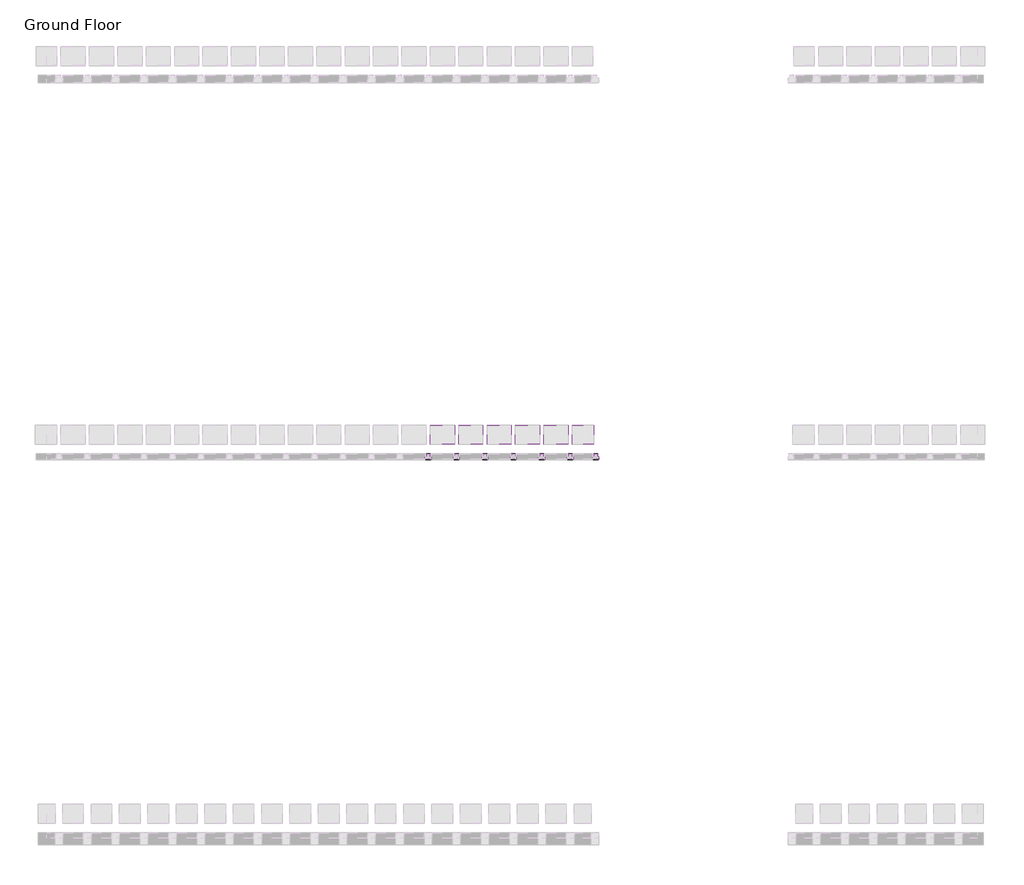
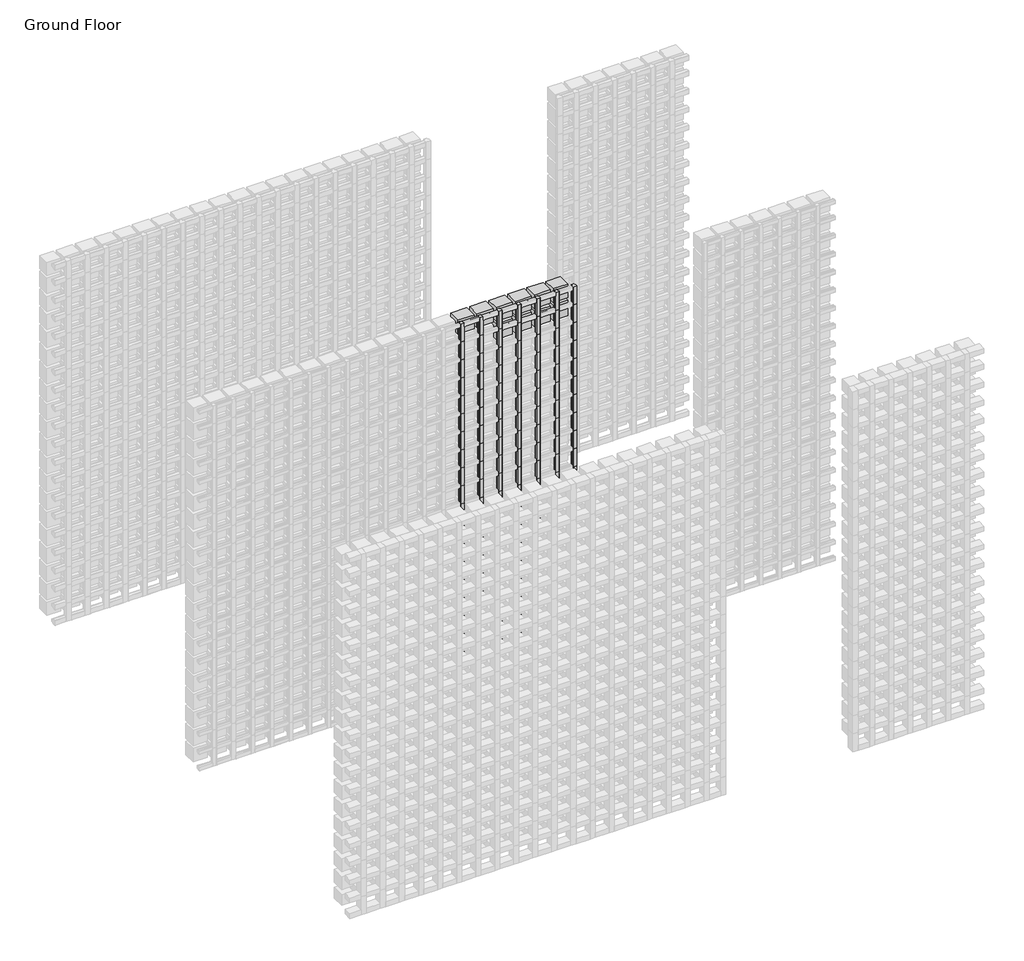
# One storey, part 101 of 350: 133 members, 10 plates.
"""IFC4 building model written with IfcOpenShell, lengths in millimetres."""

from ifc_helpers import new_model, si_unit, origin, place, context, project, spatial, transform, mapped, element, save
from components import rectangular_mullion_f1976eb1, rectangular_mullion_a370a012, empty_system_panel_empty_5a3607ba, empty_system_panel_empty_babc703c, empty_system_panel_empty_56815599, empty_system_panel_empty_50ac6329

model = new_model("IFC4")

# Units and contexts
model_context = context("Model", 3, world=origin())
ifc_project = project(units=[si_unit("LENGTHUNIT", "METRE", prefix="MILLI")], contexts=[model_context])

# Site, building, storey
site = spatial("IfcSite", under=ifc_project)
building = spatial("IfcBuilding", under=site)
storey = spatial("IfcBuildingStorey", under=building, Name="Ground Floor", Elevation=0.0)

# Members
placement = place(None, origin())
rectangular_mullion_shape = rectangular_mullion_f1976eb1(model_context)
element("IfcMember", 1, ObjectType="Rectangular Mullion : Batten_Timber_Modinex_Austratus_Grid_Fin_30x30_AlaskanYellowCedar", at=placement, inside=storey, context=model_context, shape_type="MappedRepresentation", body=[
    mapped(rectangular_mullion_shape, transform((4016.4361642, 42968.2978302, 150.0), x_axis=(1.0, 0.0, 0.0), y_axis=(0.0, -1.0, 0.0), z_axis=(0.0, 0.0, -1.0))),
])
element("IfcMember", 2, ObjectType="Rectangular Mullion : Batten_Timber_Modinex_Austratus_Grid_Fin_30x30_AlaskanYellowCedar", at=placement, inside=storey, context=model_context, shape_type="MappedRepresentation", body=[
    mapped(rectangular_mullion_shape, transform((4016.4361642, 42968.2978302, 300.0), x_axis=(1.0, 0.0, 0.0), y_axis=(0.0, -1.0, 0.0), z_axis=(0.0, 0.0, -1.0))),
])
element("IfcMember", 3, ObjectType="Rectangular Mullion : Batten_Timber_Modinex_Austratus_Grid_Fin_30x30_AlaskanYellowCedar", at=placement, inside=storey, context=model_context, shape_type="MappedRepresentation", body=[
    mapped(rectangular_mullion_shape, transform((4016.4361642, 42968.2978302, 450.0), x_axis=(1.0, 0.0, 0.0), y_axis=(0.0, -1.0, 0.0), z_axis=(0.0, 0.0, -1.0))),
])
element("IfcMember", 4, ObjectType="Rectangular Mullion : Batten_Timber_Modinex_Austratus_Grid_Fin_30x30_AlaskanYellowCedar", at=placement, inside=storey, context=model_context, shape_type="MappedRepresentation", body=[
    mapped(rectangular_mullion_shape, transform((4016.4361642, 42968.2978302, 600.0), x_axis=(1.0, 0.0, 0.0), y_axis=(0.0, -1.0, 0.0), z_axis=(0.0, 0.0, -1.0))),
])
element("IfcMember", 5, ObjectType="Rectangular Mullion : Batten_Timber_Modinex_Austratus_Grid_Fin_30x30_AlaskanYellowCedar", at=placement, inside=storey, context=model_context, shape_type="MappedRepresentation", body=[
    mapped(rectangular_mullion_shape, transform((4016.4361642, 42968.2978302, 750.0), x_axis=(1.0, 0.0, 0.0), y_axis=(0.0, -1.0, 0.0), z_axis=(0.0, 0.0, -1.0))),
])
element("IfcMember", 6, ObjectType="Rectangular Mullion : Batten_Timber_Modinex_Austratus_Grid_Fin_30x30_AlaskanYellowCedar", at=placement, inside=storey, context=model_context, shape_type="MappedRepresentation", body=[
    mapped(rectangular_mullion_shape, transform((4016.4361642, 42968.2978302, 900.0), x_axis=(1.0, 0.0, 0.0), y_axis=(0.0, -1.0, 0.0), z_axis=(0.0, 0.0, -1.0))),
])
element("IfcMember", 7, ObjectType="Rectangular Mullion : Batten_Timber_Modinex_Austratus_Grid_Fin_30x30_AlaskanYellowCedar", at=placement, inside=storey, context=model_context, shape_type="MappedRepresentation", body=[
    mapped(rectangular_mullion_shape, transform((4016.4361642, 42968.2978302, 1050.0), x_axis=(1.0, 0.0, 0.0), y_axis=(0.0, -1.0, 0.0), z_axis=(0.0, 0.0, -1.0))),
])
element("IfcMember", 8, ObjectType="Rectangular Mullion : Batten_Timber_Modinex_Austratus_Grid_Fin_30x30_AlaskanYellowCedar", at=placement, inside=storey, context=model_context, shape_type="MappedRepresentation", body=[
    mapped(rectangular_mullion_shape, transform((4016.4361642, 42968.2978302, 1200.0), x_axis=(1.0, 0.0, 0.0), y_axis=(0.0, -1.0, 0.0), z_axis=(0.0, 0.0, -1.0))),
])
element("IfcMember", 9, ObjectType="Rectangular Mullion : Batten_Timber_Modinex_Austratus_Grid_Fin_30x30_AlaskanYellowCedar", at=placement, inside=storey, context=model_context, shape_type="MappedRepresentation", body=[
    mapped(rectangular_mullion_shape, transform((4016.4361642, 42968.2978302, 1350.0), x_axis=(1.0, 0.0, 0.0), y_axis=(0.0, -1.0, 0.0), z_axis=(0.0, 0.0, -1.0))),
])
element("IfcMember", 10, ObjectType="Rectangular Mullion : Batten_Timber_Modinex_Austratus_Grid_Fin_30x30_AlaskanYellowCedar", at=placement, inside=storey, context=model_context, shape_type="MappedRepresentation", body=[
    mapped(rectangular_mullion_shape, transform((4016.4361642, 42968.2978302, 1500.0), x_axis=(1.0, 0.0, 0.0), y_axis=(0.0, -1.0, 0.0), z_axis=(0.0, 0.0, -1.0))),
])
element("IfcMember", 11, ObjectType="Rectangular Mullion : Batten_Timber_Modinex_Austratus_Grid_Fin_30x30_AlaskanYellowCedar", at=placement, inside=storey, context=model_context, shape_type="MappedRepresentation", body=[
    mapped(rectangular_mullion_shape, transform((4016.4361642, 42968.2978302, 1650.0), x_axis=(1.0, 0.0, 0.0), y_axis=(0.0, -1.0, 0.0), z_axis=(0.0, 0.0, -1.0))),
])
element("IfcMember", 12, ObjectType="Rectangular Mullion : Batten_Timber_Modinex_Austratus_Grid_Fin_30x30_AlaskanYellowCedar", at=placement, inside=storey, context=model_context, shape_type="MappedRepresentation", body=[
    mapped(rectangular_mullion_shape, transform((4016.4361642, 42968.2978302, 1800.0), x_axis=(1.0, 0.0, 0.0), y_axis=(0.0, -1.0, 0.0), z_axis=(0.0, 0.0, -1.0))),
])
element("IfcMember", 13, ObjectType="Rectangular Mullion : Batten_Timber_Modinex_Austratus_Grid_Fin_30x30_AlaskanYellowCedar", at=placement, inside=storey, context=model_context, shape_type="MappedRepresentation", body=[
    mapped(rectangular_mullion_shape, transform((4016.4361642, 42968.2978302, 1950.0), x_axis=(1.0, 0.0, 0.0), y_axis=(0.0, -1.0, 0.0), z_axis=(0.0, 0.0, -1.0))),
])
element("IfcMember", 14, ObjectType="Rectangular Mullion : Batten_Timber_Modinex_Austratus_Grid_Fin_30x30_AlaskanYellowCedar", at=placement, inside=storey, context=model_context, shape_type="MappedRepresentation", body=[
    mapped(rectangular_mullion_shape, transform((4016.4361642, 42968.2978302, 2100.0), x_axis=(1.0, 0.0, 0.0), y_axis=(0.0, -1.0, 0.0), z_axis=(0.0, 0.0, -1.0))),
])
element("IfcMember", 15, ObjectType="Rectangular Mullion : Batten_Timber_Modinex_Austratus_Grid_Fin_30x30_AlaskanYellowCedar", at=placement, inside=storey, context=model_context, shape_type="MappedRepresentation", body=[
    mapped(rectangular_mullion_shape, transform((4016.4361642, 42968.2978302, 2250.0), x_axis=(1.0, 0.0, 0.0), y_axis=(0.0, -1.0, 0.0), z_axis=(0.0, 0.0, -1.0))),
])
element("IfcMember", 16, ObjectType="Rectangular Mullion : Batten_Timber_Modinex_Austratus_Grid_Fin_30x30_AlaskanYellowCedar", at=placement, inside=storey, context=model_context, shape_type="MappedRepresentation", body=[
    mapped(rectangular_mullion_shape, transform((4016.4361642, 42968.2978302, 2400.0), x_axis=(1.0, 0.0, 0.0), y_axis=(0.0, -1.0, 0.0), z_axis=(0.0, 0.0, -1.0))),
])
element("IfcMember", 17, ObjectType="Rectangular Mullion : Batten_Timber_Modinex_Austratus_Grid_Fin_30x30_AlaskanYellowCedar", at=placement, inside=storey, context=model_context, shape_type="MappedRepresentation", body=[
    mapped(rectangular_mullion_shape, transform((4016.4361642, 42968.2978302, 2550.0), x_axis=(1.0, 0.0, 0.0), y_axis=(0.0, -1.0, 0.0), z_axis=(0.0, 0.0, -1.0))),
])
element("IfcMember", 18, ObjectType="Rectangular Mullion : Batten_Timber_Modinex_Austratus_Grid_Fin_30x30_AlaskanYellowCedar", at=placement, inside=storey, context=model_context, shape_type="MappedRepresentation", body=[
    mapped(rectangular_mullion_shape, transform((4016.4361642, 42968.2978302, 2700.0), x_axis=(1.0, 0.0, 0.0), y_axis=(0.0, -1.0, 0.0), z_axis=(0.0, 0.0, -1.0))),
])
element("IfcMember", 19, ObjectType="Rectangular Mullion : Batten_Timber_Modinex_Austratus_Grid_Fin_30x30_AlaskanYellowCedar", at=placement, inside=storey, context=model_context, shape_type="MappedRepresentation", body=[
    mapped(rectangular_mullion_shape, transform((4166.4361642, 42968.2978302, 150.0), x_axis=(1.0, 0.0, 0.0), y_axis=(0.0, -1.0, 0.0), z_axis=(0.0, 0.0, -1.0))),
])
element("IfcMember", 20, ObjectType="Rectangular Mullion : Batten_Timber_Modinex_Austratus_Grid_Fin_30x30_AlaskanYellowCedar", at=placement, inside=storey, context=model_context, shape_type="MappedRepresentation", body=[
    mapped(rectangular_mullion_shape, transform((4166.4361642, 42968.2978302, 300.0), x_axis=(1.0, 0.0, 0.0), y_axis=(0.0, -1.0, 0.0), z_axis=(0.0, 0.0, -1.0))),
])
element("IfcMember", 21, ObjectType="Rectangular Mullion : Batten_Timber_Modinex_Austratus_Grid_Fin_30x30_AlaskanYellowCedar", at=placement, inside=storey, context=model_context, shape_type="MappedRepresentation", body=[
    mapped(rectangular_mullion_shape, transform((4166.4361642, 42968.2978302, 450.0), x_axis=(1.0, 0.0, 0.0), y_axis=(0.0, -1.0, 0.0), z_axis=(0.0, 0.0, -1.0))),
])
element("IfcMember", 22, ObjectType="Rectangular Mullion : Batten_Timber_Modinex_Austratus_Grid_Fin_30x30_AlaskanYellowCedar", at=placement, inside=storey, context=model_context, shape_type="MappedRepresentation", body=[
    mapped(rectangular_mullion_shape, transform((4166.4361642, 42968.2978302, 600.0), x_axis=(1.0, 0.0, 0.0), y_axis=(0.0, -1.0, 0.0), z_axis=(0.0, 0.0, -1.0))),
])
element("IfcMember", 23, ObjectType="Rectangular Mullion : Batten_Timber_Modinex_Austratus_Grid_Fin_30x30_AlaskanYellowCedar", at=placement, inside=storey, context=model_context, shape_type="MappedRepresentation", body=[
    mapped(rectangular_mullion_shape, transform((4166.4361642, 42968.2978302, 750.0), x_axis=(1.0, 0.0, 0.0), y_axis=(0.0, -1.0, 0.0), z_axis=(0.0, 0.0, -1.0))),
])
element("IfcMember", 24, ObjectType="Rectangular Mullion : Batten_Timber_Modinex_Austratus_Grid_Fin_30x30_AlaskanYellowCedar", at=placement, inside=storey, context=model_context, shape_type="MappedRepresentation", body=[
    mapped(rectangular_mullion_shape, transform((4166.4361642, 42968.2978302, 900.0), x_axis=(1.0, 0.0, 0.0), y_axis=(0.0, -1.0, 0.0), z_axis=(0.0, 0.0, -1.0))),
])
element("IfcMember", 25, ObjectType="Rectangular Mullion : Batten_Timber_Modinex_Austratus_Grid_Fin_30x30_AlaskanYellowCedar", at=placement, inside=storey, context=model_context, shape_type="MappedRepresentation", body=[
    mapped(rectangular_mullion_shape, transform((4166.4361642, 42968.2978302, 1050.0), x_axis=(1.0, 0.0, 0.0), y_axis=(0.0, -1.0, 0.0), z_axis=(0.0, 0.0, -1.0))),
])
element("IfcMember", 26, ObjectType="Rectangular Mullion : Batten_Timber_Modinex_Austratus_Grid_Fin_30x30_AlaskanYellowCedar", at=placement, inside=storey, context=model_context, shape_type="MappedRepresentation", body=[
    mapped(rectangular_mullion_shape, transform((4166.4361642, 42968.2978302, 1200.0), x_axis=(1.0, 0.0, 0.0), y_axis=(0.0, -1.0, 0.0), z_axis=(0.0, 0.0, -1.0))),
])
element("IfcMember", 27, ObjectType="Rectangular Mullion : Batten_Timber_Modinex_Austratus_Grid_Fin_30x30_AlaskanYellowCedar", at=placement, inside=storey, context=model_context, shape_type="MappedRepresentation", body=[
    mapped(rectangular_mullion_shape, transform((4166.4361642, 42968.2978302, 1350.0), x_axis=(1.0, 0.0, 0.0), y_axis=(0.0, -1.0, 0.0), z_axis=(0.0, 0.0, -1.0))),
])
element("IfcMember", 28, ObjectType="Rectangular Mullion : Batten_Timber_Modinex_Austratus_Grid_Fin_30x30_AlaskanYellowCedar", at=placement, inside=storey, context=model_context, shape_type="MappedRepresentation", body=[
    mapped(rectangular_mullion_shape, transform((4166.4361642, 42968.2978302, 1500.0), x_axis=(1.0, 0.0, 0.0), y_axis=(0.0, -1.0, 0.0), z_axis=(0.0, 0.0, -1.0))),
])
element("IfcMember", 29, ObjectType="Rectangular Mullion : Batten_Timber_Modinex_Austratus_Grid_Fin_30x30_AlaskanYellowCedar", at=placement, inside=storey, context=model_context, shape_type="MappedRepresentation", body=[
    mapped(rectangular_mullion_shape, transform((4166.4361642, 42968.2978302, 1650.0), x_axis=(1.0, 0.0, 0.0), y_axis=(0.0, -1.0, 0.0), z_axis=(0.0, 0.0, -1.0))),
])
element("IfcMember", 30, ObjectType="Rectangular Mullion : Batten_Timber_Modinex_Austratus_Grid_Fin_30x30_AlaskanYellowCedar", at=placement, inside=storey, context=model_context, shape_type="MappedRepresentation", body=[
    mapped(rectangular_mullion_shape, transform((4166.4361642, 42968.2978302, 1800.0), x_axis=(1.0, 0.0, 0.0), y_axis=(0.0, -1.0, 0.0), z_axis=(0.0, 0.0, -1.0))),
])
element("IfcMember", 31, ObjectType="Rectangular Mullion : Batten_Timber_Modinex_Austratus_Grid_Fin_30x30_AlaskanYellowCedar", at=placement, inside=storey, context=model_context, shape_type="MappedRepresentation", body=[
    mapped(rectangular_mullion_shape, transform((4166.4361642, 42968.2978302, 1950.0), x_axis=(1.0, 0.0, 0.0), y_axis=(0.0, -1.0, 0.0), z_axis=(0.0, 0.0, -1.0))),
])
element("IfcMember", 32, ObjectType="Rectangular Mullion : Batten_Timber_Modinex_Austratus_Grid_Fin_30x30_AlaskanYellowCedar", at=placement, inside=storey, context=model_context, shape_type="MappedRepresentation", body=[
    mapped(rectangular_mullion_shape, transform((4166.4361642, 42968.2978302, 2100.0), x_axis=(1.0, 0.0, 0.0), y_axis=(0.0, -1.0, 0.0), z_axis=(0.0, 0.0, -1.0))),
])
element("IfcMember", 33, ObjectType="Rectangular Mullion : Batten_Timber_Modinex_Austratus_Grid_Fin_30x30_AlaskanYellowCedar", at=placement, inside=storey, context=model_context, shape_type="MappedRepresentation", body=[
    mapped(rectangular_mullion_shape, transform((4166.4361642, 42968.2978302, 2250.0), x_axis=(1.0, 0.0, 0.0), y_axis=(0.0, -1.0, 0.0), z_axis=(0.0, 0.0, -1.0))),
])
element("IfcMember", 34, ObjectType="Rectangular Mullion : Batten_Timber_Modinex_Austratus_Grid_Fin_30x30_AlaskanYellowCedar", at=placement, inside=storey, context=model_context, shape_type="MappedRepresentation", body=[
    mapped(rectangular_mullion_shape, transform((4166.4361642, 42968.2978302, 2400.0), x_axis=(1.0, 0.0, 0.0), y_axis=(0.0, -1.0, 0.0), z_axis=(0.0, 0.0, -1.0))),
])
element("IfcMember", 35, ObjectType="Rectangular Mullion : Batten_Timber_Modinex_Austratus_Grid_Fin_30x30_AlaskanYellowCedar", at=placement, inside=storey, context=model_context, shape_type="MappedRepresentation", body=[
    mapped(rectangular_mullion_shape, transform((4166.4361642, 42968.2978302, 2550.0), x_axis=(1.0, 0.0, 0.0), y_axis=(0.0, -1.0, 0.0), z_axis=(0.0, 0.0, -1.0))),
])
element("IfcMember", 36, ObjectType="Rectangular Mullion : Batten_Timber_Modinex_Austratus_Grid_Fin_30x30_AlaskanYellowCedar", at=placement, inside=storey, context=model_context, shape_type="MappedRepresentation", body=[
    mapped(rectangular_mullion_shape, transform((4166.4361642, 42968.2978302, 2700.0), x_axis=(1.0, 0.0, 0.0), y_axis=(0.0, -1.0, 0.0), z_axis=(0.0, 0.0, -1.0))),
])
element("IfcMember", 37, ObjectType="Rectangular Mullion : Batten_Timber_Modinex_Austratus_Grid_Fin_30x30_AlaskanYellowCedar", at=placement, inside=storey, context=model_context, shape_type="MappedRepresentation", body=[
    mapped(rectangular_mullion_shape, transform((4316.4361642, 42968.2978302, 150.0), x_axis=(1.0, 0.0, 0.0), y_axis=(0.0, -1.0, 0.0), z_axis=(0.0, 0.0, -1.0))),
])
element("IfcMember", 38, ObjectType="Rectangular Mullion : Batten_Timber_Modinex_Austratus_Grid_Fin_30x30_AlaskanYellowCedar", at=placement, inside=storey, context=model_context, shape_type="MappedRepresentation", body=[
    mapped(rectangular_mullion_shape, transform((4316.4361642, 42968.2978302, 300.0), x_axis=(1.0, 0.0, 0.0), y_axis=(0.0, -1.0, 0.0), z_axis=(0.0, 0.0, -1.0))),
])
element("IfcMember", 39, ObjectType="Rectangular Mullion : Batten_Timber_Modinex_Austratus_Grid_Fin_30x30_AlaskanYellowCedar", at=placement, inside=storey, context=model_context, shape_type="MappedRepresentation", body=[
    mapped(rectangular_mullion_shape, transform((4316.4361642, 42968.2978302, 450.0), x_axis=(1.0, 0.0, 0.0), y_axis=(0.0, -1.0, 0.0), z_axis=(0.0, 0.0, -1.0))),
])
element("IfcMember", 40, ObjectType="Rectangular Mullion : Batten_Timber_Modinex_Austratus_Grid_Fin_30x30_AlaskanYellowCedar", at=placement, inside=storey, context=model_context, shape_type="MappedRepresentation", body=[
    mapped(rectangular_mullion_shape, transform((4316.4361642, 42968.2978302, 600.0), x_axis=(1.0, 0.0, 0.0), y_axis=(0.0, -1.0, 0.0), z_axis=(0.0, 0.0, -1.0))),
])
element("IfcMember", 41, ObjectType="Rectangular Mullion : Batten_Timber_Modinex_Austratus_Grid_Fin_30x30_AlaskanYellowCedar", at=placement, inside=storey, context=model_context, shape_type="MappedRepresentation", body=[
    mapped(rectangular_mullion_shape, transform((4316.4361642, 42968.2978302, 750.0), x_axis=(1.0, 0.0, 0.0), y_axis=(0.0, -1.0, 0.0), z_axis=(0.0, 0.0, -1.0))),
])
element("IfcMember", 42, ObjectType="Rectangular Mullion : Batten_Timber_Modinex_Austratus_Grid_Fin_30x30_AlaskanYellowCedar", at=placement, inside=storey, context=model_context, shape_type="MappedRepresentation", body=[
    mapped(rectangular_mullion_shape, transform((4316.4361642, 42968.2978302, 900.0), x_axis=(1.0, 0.0, 0.0), y_axis=(0.0, -1.0, 0.0), z_axis=(0.0, 0.0, -1.0))),
])
element("IfcMember", 43, ObjectType="Rectangular Mullion : Batten_Timber_Modinex_Austratus_Grid_Fin_30x30_AlaskanYellowCedar", at=placement, inside=storey, context=model_context, shape_type="MappedRepresentation", body=[
    mapped(rectangular_mullion_shape, transform((4316.4361642, 42968.2978302, 1050.0), x_axis=(1.0, 0.0, 0.0), y_axis=(0.0, -1.0, 0.0), z_axis=(0.0, 0.0, -1.0))),
])
element("IfcMember", 44, ObjectType="Rectangular Mullion : Batten_Timber_Modinex_Austratus_Grid_Fin_30x30_AlaskanYellowCedar", at=placement, inside=storey, context=model_context, shape_type="MappedRepresentation", body=[
    mapped(rectangular_mullion_shape, transform((4316.4361642, 42968.2978302, 1200.0), x_axis=(1.0, 0.0, 0.0), y_axis=(0.0, -1.0, 0.0), z_axis=(0.0, 0.0, -1.0))),
])
element("IfcMember", 45, ObjectType="Rectangular Mullion : Batten_Timber_Modinex_Austratus_Grid_Fin_30x30_AlaskanYellowCedar", at=placement, inside=storey, context=model_context, shape_type="MappedRepresentation", body=[
    mapped(rectangular_mullion_shape, transform((4316.4361642, 42968.2978302, 1350.0), x_axis=(1.0, 0.0, 0.0), y_axis=(0.0, -1.0, 0.0), z_axis=(0.0, 0.0, -1.0))),
])
element("IfcMember", 46, ObjectType="Rectangular Mullion : Batten_Timber_Modinex_Austratus_Grid_Fin_30x30_AlaskanYellowCedar", at=placement, inside=storey, context=model_context, shape_type="MappedRepresentation", body=[
    mapped(rectangular_mullion_shape, transform((4316.4361642, 42968.2978302, 1500.0), x_axis=(1.0, 0.0, 0.0), y_axis=(0.0, -1.0, 0.0), z_axis=(0.0, 0.0, -1.0))),
])
element("IfcMember", 47, ObjectType="Rectangular Mullion : Batten_Timber_Modinex_Austratus_Grid_Fin_30x30_AlaskanYellowCedar", at=placement, inside=storey, context=model_context, shape_type="MappedRepresentation", body=[
    mapped(rectangular_mullion_shape, transform((4316.4361642, 42968.2978302, 1650.0), x_axis=(1.0, 0.0, 0.0), y_axis=(0.0, -1.0, 0.0), z_axis=(0.0, 0.0, -1.0))),
])
element("IfcMember", 48, ObjectType="Rectangular Mullion : Batten_Timber_Modinex_Austratus_Grid_Fin_30x30_AlaskanYellowCedar", at=placement, inside=storey, context=model_context, shape_type="MappedRepresentation", body=[
    mapped(rectangular_mullion_shape, transform((4316.4361642, 42968.2978302, 1800.0), x_axis=(1.0, 0.0, 0.0), y_axis=(0.0, -1.0, 0.0), z_axis=(0.0, 0.0, -1.0))),
])
element("IfcMember", 49, ObjectType="Rectangular Mullion : Batten_Timber_Modinex_Austratus_Grid_Fin_30x30_AlaskanYellowCedar", at=placement, inside=storey, context=model_context, shape_type="MappedRepresentation", body=[
    mapped(rectangular_mullion_shape, transform((4316.4361642, 42968.2978302, 1950.0), x_axis=(1.0, 0.0, 0.0), y_axis=(0.0, -1.0, 0.0), z_axis=(0.0, 0.0, -1.0))),
])
element("IfcMember", 50, ObjectType="Rectangular Mullion : Batten_Timber_Modinex_Austratus_Grid_Fin_30x30_AlaskanYellowCedar", at=placement, inside=storey, context=model_context, shape_type="MappedRepresentation", body=[
    mapped(rectangular_mullion_shape, transform((4316.4361642, 42968.2978302, 2100.0), x_axis=(1.0, 0.0, 0.0), y_axis=(0.0, -1.0, 0.0), z_axis=(0.0, 0.0, -1.0))),
])
element("IfcMember", 51, ObjectType="Rectangular Mullion : Batten_Timber_Modinex_Austratus_Grid_Fin_30x30_AlaskanYellowCedar", at=placement, inside=storey, context=model_context, shape_type="MappedRepresentation", body=[
    mapped(rectangular_mullion_shape, transform((4316.4361642, 42968.2978302, 2250.0), x_axis=(1.0, 0.0, 0.0), y_axis=(0.0, -1.0, 0.0), z_axis=(0.0, 0.0, -1.0))),
])
element("IfcMember", 52, ObjectType="Rectangular Mullion : Batten_Timber_Modinex_Austratus_Grid_Fin_30x30_AlaskanYellowCedar", at=placement, inside=storey, context=model_context, shape_type="MappedRepresentation", body=[
    mapped(rectangular_mullion_shape, transform((4316.4361642, 42968.2978302, 2400.0), x_axis=(1.0, 0.0, 0.0), y_axis=(0.0, -1.0, 0.0), z_axis=(0.0, 0.0, -1.0))),
])
element("IfcMember", 53, ObjectType="Rectangular Mullion : Batten_Timber_Modinex_Austratus_Grid_Fin_30x30_AlaskanYellowCedar", at=placement, inside=storey, context=model_context, shape_type="MappedRepresentation", body=[
    mapped(rectangular_mullion_shape, transform((4316.4361642, 42968.2978302, 2550.0), x_axis=(1.0, 0.0, 0.0), y_axis=(0.0, -1.0, 0.0), z_axis=(0.0, 0.0, -1.0))),
])
element("IfcMember", 54, ObjectType="Rectangular Mullion : Batten_Timber_Modinex_Austratus_Grid_Fin_30x30_AlaskanYellowCedar", at=placement, inside=storey, context=model_context, shape_type="MappedRepresentation", body=[
    mapped(rectangular_mullion_shape, transform((4316.4361642, 42968.2978302, 2700.0), x_axis=(1.0, 0.0, 0.0), y_axis=(0.0, -1.0, 0.0), z_axis=(0.0, 0.0, -1.0))),
])
element("IfcMember", 55, ObjectType="Rectangular Mullion : Batten_Timber_Modinex_Austratus_Grid_Fin_30x30_AlaskanYellowCedar", at=placement, inside=storey, context=model_context, shape_type="MappedRepresentation", body=[
    mapped(rectangular_mullion_shape, transform((4466.4361642, 42968.2978302, 150.0), x_axis=(1.0, 0.0, 0.0), y_axis=(0.0, -1.0, 0.0), z_axis=(0.0, 0.0, -1.0))),
])
element("IfcMember", 56, ObjectType="Rectangular Mullion : Batten_Timber_Modinex_Austratus_Grid_Fin_30x30_AlaskanYellowCedar", at=placement, inside=storey, context=model_context, shape_type="MappedRepresentation", body=[
    mapped(rectangular_mullion_shape, transform((4466.4361642, 42968.2978302, 300.0), x_axis=(1.0, 0.0, 0.0), y_axis=(0.0, -1.0, 0.0), z_axis=(0.0, 0.0, -1.0))),
])
element("IfcMember", 57, ObjectType="Rectangular Mullion : Batten_Timber_Modinex_Austratus_Grid_Fin_30x30_AlaskanYellowCedar", at=placement, inside=storey, context=model_context, shape_type="MappedRepresentation", body=[
    mapped(rectangular_mullion_shape, transform((4466.4361642, 42968.2978302, 450.0), x_axis=(1.0, 0.0, 0.0), y_axis=(0.0, -1.0, 0.0), z_axis=(0.0, 0.0, -1.0))),
])
element("IfcMember", 58, ObjectType="Rectangular Mullion : Batten_Timber_Modinex_Austratus_Grid_Fin_30x30_AlaskanYellowCedar", at=placement, inside=storey, context=model_context, shape_type="MappedRepresentation", body=[
    mapped(rectangular_mullion_shape, transform((4466.4361642, 42968.2978302, 600.0), x_axis=(1.0, 0.0, 0.0), y_axis=(0.0, -1.0, 0.0), z_axis=(0.0, 0.0, -1.0))),
])
element("IfcMember", 59, ObjectType="Rectangular Mullion : Batten_Timber_Modinex_Austratus_Grid_Fin_30x30_AlaskanYellowCedar", at=placement, inside=storey, context=model_context, shape_type="MappedRepresentation", body=[
    mapped(rectangular_mullion_shape, transform((4466.4361642, 42968.2978302, 750.0), x_axis=(1.0, 0.0, 0.0), y_axis=(0.0, -1.0, 0.0), z_axis=(0.0, 0.0, -1.0))),
])
element("IfcMember", 60, ObjectType="Rectangular Mullion : Batten_Timber_Modinex_Austratus_Grid_Fin_30x30_AlaskanYellowCedar", at=placement, inside=storey, context=model_context, shape_type="MappedRepresentation", body=[
    mapped(rectangular_mullion_shape, transform((4466.4361642, 42968.2978302, 900.0), x_axis=(1.0, 0.0, 0.0), y_axis=(0.0, -1.0, 0.0), z_axis=(0.0, 0.0, -1.0))),
])
element("IfcMember", 61, ObjectType="Rectangular Mullion : Batten_Timber_Modinex_Austratus_Grid_Fin_30x30_AlaskanYellowCedar", at=placement, inside=storey, context=model_context, shape_type="MappedRepresentation", body=[
    mapped(rectangular_mullion_shape, transform((4466.4361642, 42968.2978302, 1050.0), x_axis=(1.0, 0.0, 0.0), y_axis=(0.0, -1.0, 0.0), z_axis=(0.0, 0.0, -1.0))),
])
element("IfcMember", 62, ObjectType="Rectangular Mullion : Batten_Timber_Modinex_Austratus_Grid_Fin_30x30_AlaskanYellowCedar", at=placement, inside=storey, context=model_context, shape_type="MappedRepresentation", body=[
    mapped(rectangular_mullion_shape, transform((4466.4361642, 42968.2978302, 1200.0), x_axis=(1.0, 0.0, 0.0), y_axis=(0.0, -1.0, 0.0), z_axis=(0.0, 0.0, -1.0))),
])
element("IfcMember", 63, ObjectType="Rectangular Mullion : Batten_Timber_Modinex_Austratus_Grid_Fin_30x30_AlaskanYellowCedar", at=placement, inside=storey, context=model_context, shape_type="MappedRepresentation", body=[
    mapped(rectangular_mullion_shape, transform((4466.4361642, 42968.2978302, 1350.0), x_axis=(1.0, 0.0, 0.0), y_axis=(0.0, -1.0, 0.0), z_axis=(0.0, 0.0, -1.0))),
])
element("IfcMember", 64, ObjectType="Rectangular Mullion : Batten_Timber_Modinex_Austratus_Grid_Fin_30x30_AlaskanYellowCedar", at=placement, inside=storey, context=model_context, shape_type="MappedRepresentation", body=[
    mapped(rectangular_mullion_shape, transform((4466.4361642, 42968.2978302, 1500.0), x_axis=(1.0, 0.0, 0.0), y_axis=(0.0, -1.0, 0.0), z_axis=(0.0, 0.0, -1.0))),
])
element("IfcMember", 65, ObjectType="Rectangular Mullion : Batten_Timber_Modinex_Austratus_Grid_Fin_30x30_AlaskanYellowCedar", at=placement, inside=storey, context=model_context, shape_type="MappedRepresentation", body=[
    mapped(rectangular_mullion_shape, transform((4466.4361642, 42968.2978302, 1650.0), x_axis=(1.0, 0.0, 0.0), y_axis=(0.0, -1.0, 0.0), z_axis=(0.0, 0.0, -1.0))),
])
element("IfcMember", 66, ObjectType="Rectangular Mullion : Batten_Timber_Modinex_Austratus_Grid_Fin_30x30_AlaskanYellowCedar", at=placement, inside=storey, context=model_context, shape_type="MappedRepresentation", body=[
    mapped(rectangular_mullion_shape, transform((4466.4361642, 42968.2978302, 1800.0), x_axis=(1.0, 0.0, 0.0), y_axis=(0.0, -1.0, 0.0), z_axis=(0.0, 0.0, -1.0))),
])
element("IfcMember", 67, ObjectType="Rectangular Mullion : Batten_Timber_Modinex_Austratus_Grid_Fin_30x30_AlaskanYellowCedar", at=placement, inside=storey, context=model_context, shape_type="MappedRepresentation", body=[
    mapped(rectangular_mullion_shape, transform((4466.4361642, 42968.2978302, 1950.0), x_axis=(1.0, 0.0, 0.0), y_axis=(0.0, -1.0, 0.0), z_axis=(0.0, 0.0, -1.0))),
])
element("IfcMember", 68, ObjectType="Rectangular Mullion : Batten_Timber_Modinex_Austratus_Grid_Fin_30x30_AlaskanYellowCedar", at=placement, inside=storey, context=model_context, shape_type="MappedRepresentation", body=[
    mapped(rectangular_mullion_shape, transform((4466.4361642, 42968.2978302, 2100.0), x_axis=(1.0, 0.0, 0.0), y_axis=(0.0, -1.0, 0.0), z_axis=(0.0, 0.0, -1.0))),
])
element("IfcMember", 69, ObjectType="Rectangular Mullion : Batten_Timber_Modinex_Austratus_Grid_Fin_30x30_AlaskanYellowCedar", at=placement, inside=storey, context=model_context, shape_type="MappedRepresentation", body=[
    mapped(rectangular_mullion_shape, transform((4466.4361642, 42968.2978302, 2250.0), x_axis=(1.0, 0.0, 0.0), y_axis=(0.0, -1.0, 0.0), z_axis=(0.0, 0.0, -1.0))),
])
element("IfcMember", 70, ObjectType="Rectangular Mullion : Batten_Timber_Modinex_Austratus_Grid_Fin_30x30_AlaskanYellowCedar", at=placement, inside=storey, context=model_context, shape_type="MappedRepresentation", body=[
    mapped(rectangular_mullion_shape, transform((4466.4361642, 42968.2978302, 2400.0), x_axis=(1.0, 0.0, 0.0), y_axis=(0.0, -1.0, 0.0), z_axis=(0.0, 0.0, -1.0))),
])
element("IfcMember", 71, ObjectType="Rectangular Mullion : Batten_Timber_Modinex_Austratus_Grid_Fin_30x30_AlaskanYellowCedar", at=placement, inside=storey, context=model_context, shape_type="MappedRepresentation", body=[
    mapped(rectangular_mullion_shape, transform((4466.4361642, 42968.2978302, 2550.0), x_axis=(1.0, 0.0, 0.0), y_axis=(0.0, -1.0, 0.0), z_axis=(0.0, 0.0, -1.0))),
])
element("IfcMember", 72, ObjectType="Rectangular Mullion : Batten_Timber_Modinex_Austratus_Grid_Fin_30x30_AlaskanYellowCedar", at=placement, inside=storey, context=model_context, shape_type="MappedRepresentation", body=[
    mapped(rectangular_mullion_shape, transform((4466.4361642, 42968.2978302, 2700.0), x_axis=(1.0, 0.0, 0.0), y_axis=(0.0, -1.0, 0.0), z_axis=(0.0, 0.0, -1.0))),
])
element("IfcMember", 73, ObjectType="Rectangular Mullion : Batten_Timber_Modinex_Austratus_Grid_Fin_30x30_AlaskanYellowCedar", at=placement, inside=storey, context=model_context, shape_type="MappedRepresentation", body=[
    mapped(rectangular_mullion_shape, transform((4616.4361642, 42968.2978302, 150.0), x_axis=(1.0, 0.0, 0.0), y_axis=(0.0, -1.0, 0.0), z_axis=(0.0, 0.0, -1.0))),
])
element("IfcMember", 74, ObjectType="Rectangular Mullion : Batten_Timber_Modinex_Austratus_Grid_Fin_30x30_AlaskanYellowCedar", at=placement, inside=storey, context=model_context, shape_type="MappedRepresentation", body=[
    mapped(rectangular_mullion_shape, transform((4616.4361642, 42968.2978302, 300.0), x_axis=(1.0, 0.0, 0.0), y_axis=(0.0, -1.0, 0.0), z_axis=(0.0, 0.0, -1.0))),
])
element("IfcMember", 75, ObjectType="Rectangular Mullion : Batten_Timber_Modinex_Austratus_Grid_Fin_30x30_AlaskanYellowCedar", at=placement, inside=storey, context=model_context, shape_type="MappedRepresentation", body=[
    mapped(rectangular_mullion_shape, transform((4616.4361642, 42968.2978302, 450.0), x_axis=(1.0, 0.0, 0.0), y_axis=(0.0, -1.0, 0.0), z_axis=(0.0, 0.0, -1.0))),
])
element("IfcMember", 76, ObjectType="Rectangular Mullion : Batten_Timber_Modinex_Austratus_Grid_Fin_30x30_AlaskanYellowCedar", at=placement, inside=storey, context=model_context, shape_type="MappedRepresentation", body=[
    mapped(rectangular_mullion_shape, transform((4616.4361642, 42968.2978302, 600.0), x_axis=(1.0, 0.0, 0.0), y_axis=(0.0, -1.0, 0.0), z_axis=(0.0, 0.0, -1.0))),
])
element("IfcMember", 77, ObjectType="Rectangular Mullion : Batten_Timber_Modinex_Austratus_Grid_Fin_30x30_AlaskanYellowCedar", at=placement, inside=storey, context=model_context, shape_type="MappedRepresentation", body=[
    mapped(rectangular_mullion_shape, transform((4616.4361642, 42968.2978302, 750.0), x_axis=(1.0, 0.0, 0.0), y_axis=(0.0, -1.0, 0.0), z_axis=(0.0, 0.0, -1.0))),
])
element("IfcMember", 78, ObjectType="Rectangular Mullion : Batten_Timber_Modinex_Austratus_Grid_Fin_30x30_AlaskanYellowCedar", at=placement, inside=storey, context=model_context, shape_type="MappedRepresentation", body=[
    mapped(rectangular_mullion_shape, transform((4616.4361642, 42968.2978302, 900.0), x_axis=(1.0, 0.0, 0.0), y_axis=(0.0, -1.0, 0.0), z_axis=(0.0, 0.0, -1.0))),
])
element("IfcMember", 79, ObjectType="Rectangular Mullion : Batten_Timber_Modinex_Austratus_Grid_Fin_30x30_AlaskanYellowCedar", at=placement, inside=storey, context=model_context, shape_type="MappedRepresentation", body=[
    mapped(rectangular_mullion_shape, transform((4616.4361642, 42968.2978302, 1050.0), x_axis=(1.0, 0.0, 0.0), y_axis=(0.0, -1.0, 0.0), z_axis=(0.0, 0.0, -1.0))),
])
element("IfcMember", 80, ObjectType="Rectangular Mullion : Batten_Timber_Modinex_Austratus_Grid_Fin_30x30_AlaskanYellowCedar", at=placement, inside=storey, context=model_context, shape_type="MappedRepresentation", body=[
    mapped(rectangular_mullion_shape, transform((4616.4361642, 42968.2978302, 1200.0), x_axis=(1.0, 0.0, 0.0), y_axis=(0.0, -1.0, 0.0), z_axis=(0.0, 0.0, -1.0))),
])
element("IfcMember", 81, ObjectType="Rectangular Mullion : Batten_Timber_Modinex_Austratus_Grid_Fin_30x30_AlaskanYellowCedar", at=placement, inside=storey, context=model_context, shape_type="MappedRepresentation", body=[
    mapped(rectangular_mullion_shape, transform((4616.4361642, 42968.2978302, 1350.0), x_axis=(1.0, 0.0, 0.0), y_axis=(0.0, -1.0, 0.0), z_axis=(0.0, 0.0, -1.0))),
])
element("IfcMember", 82, ObjectType="Rectangular Mullion : Batten_Timber_Modinex_Austratus_Grid_Fin_30x30_AlaskanYellowCedar", at=placement, inside=storey, context=model_context, shape_type="MappedRepresentation", body=[
    mapped(rectangular_mullion_shape, transform((4616.4361642, 42968.2978302, 1500.0), x_axis=(1.0, 0.0, 0.0), y_axis=(0.0, -1.0, 0.0), z_axis=(0.0, 0.0, -1.0))),
])
element("IfcMember", 83, ObjectType="Rectangular Mullion : Batten_Timber_Modinex_Austratus_Grid_Fin_30x30_AlaskanYellowCedar", at=placement, inside=storey, context=model_context, shape_type="MappedRepresentation", body=[
    mapped(rectangular_mullion_shape, transform((4616.4361642, 42968.2978302, 1650.0), x_axis=(1.0, 0.0, 0.0), y_axis=(0.0, -1.0, 0.0), z_axis=(0.0, 0.0, -1.0))),
])
element("IfcMember", 84, ObjectType="Rectangular Mullion : Batten_Timber_Modinex_Austratus_Grid_Fin_30x30_AlaskanYellowCedar", at=placement, inside=storey, context=model_context, shape_type="MappedRepresentation", body=[
    mapped(rectangular_mullion_shape, transform((4616.4361642, 42968.2978302, 1800.0), x_axis=(1.0, 0.0, 0.0), y_axis=(0.0, -1.0, 0.0), z_axis=(0.0, 0.0, -1.0))),
])
element("IfcMember", 85, ObjectType="Rectangular Mullion : Batten_Timber_Modinex_Austratus_Grid_Fin_30x30_AlaskanYellowCedar", at=placement, inside=storey, context=model_context, shape_type="MappedRepresentation", body=[
    mapped(rectangular_mullion_shape, transform((4616.4361642, 42968.2978302, 1950.0), x_axis=(1.0, 0.0, 0.0), y_axis=(0.0, -1.0, 0.0), z_axis=(0.0, 0.0, -1.0))),
])
element("IfcMember", 86, ObjectType="Rectangular Mullion : Batten_Timber_Modinex_Austratus_Grid_Fin_30x30_AlaskanYellowCedar", at=placement, inside=storey, context=model_context, shape_type="MappedRepresentation", body=[
    mapped(rectangular_mullion_shape, transform((4616.4361642, 42968.2978302, 2100.0), x_axis=(1.0, 0.0, 0.0), y_axis=(0.0, -1.0, 0.0), z_axis=(0.0, 0.0, -1.0))),
])
element("IfcMember", 87, ObjectType="Rectangular Mullion : Batten_Timber_Modinex_Austratus_Grid_Fin_30x30_AlaskanYellowCedar", at=placement, inside=storey, context=model_context, shape_type="MappedRepresentation", body=[
    mapped(rectangular_mullion_shape, transform((4616.4361642, 42968.2978302, 2250.0), x_axis=(1.0, 0.0, 0.0), y_axis=(0.0, -1.0, 0.0), z_axis=(0.0, 0.0, -1.0))),
])
element("IfcMember", 88, ObjectType="Rectangular Mullion : Batten_Timber_Modinex_Austratus_Grid_Fin_30x30_AlaskanYellowCedar", at=placement, inside=storey, context=model_context, shape_type="MappedRepresentation", body=[
    mapped(rectangular_mullion_shape, transform((4616.4361642, 42968.2978302, 2400.0), x_axis=(1.0, 0.0, 0.0), y_axis=(0.0, -1.0, 0.0), z_axis=(0.0, 0.0, -1.0))),
])
element("IfcMember", 89, ObjectType="Rectangular Mullion : Batten_Timber_Modinex_Austratus_Grid_Fin_30x30_AlaskanYellowCedar", at=placement, inside=storey, context=model_context, shape_type="MappedRepresentation", body=[
    mapped(rectangular_mullion_shape, transform((4616.4361642, 42968.2978302, 2550.0), x_axis=(1.0, 0.0, 0.0), y_axis=(0.0, -1.0, 0.0), z_axis=(0.0, 0.0, -1.0))),
])
element("IfcMember", 90, ObjectType="Rectangular Mullion : Batten_Timber_Modinex_Austratus_Grid_Fin_30x30_AlaskanYellowCedar", at=placement, inside=storey, context=model_context, shape_type="MappedRepresentation", body=[
    mapped(rectangular_mullion_shape, transform((4616.4361642, 42968.2978302, 2700.0), x_axis=(1.0, 0.0, 0.0), y_axis=(0.0, -1.0, 0.0), z_axis=(0.0, 0.0, -1.0))),
])
element("IfcMember", 91, ObjectType="Rectangular Mullion : Batten_Timber_Modinex_Austratus_Grid_Fin_30x30_AlaskanYellowCedar", at=placement, inside=storey, context=model_context, shape_type="MappedRepresentation", body=[
    mapped(rectangular_mullion_shape, transform((4766.4361642, 42968.2978302, 150.0), x_axis=(1.0, 0.0, 0.0), y_axis=(0.0, -1.0, 0.0), z_axis=(0.0, 0.0, -1.0))),
])
element("IfcMember", 92, ObjectType="Rectangular Mullion : Batten_Timber_Modinex_Austratus_Grid_Fin_30x30_AlaskanYellowCedar", at=placement, inside=storey, context=model_context, shape_type="MappedRepresentation", body=[
    mapped(rectangular_mullion_shape, transform((4766.4361642, 42968.2978302, 300.0), x_axis=(1.0, 0.0, 0.0), y_axis=(0.0, -1.0, 0.0), z_axis=(0.0, 0.0, -1.0))),
])
element("IfcMember", 93, ObjectType="Rectangular Mullion : Batten_Timber_Modinex_Austratus_Grid_Fin_30x30_AlaskanYellowCedar", at=placement, inside=storey, context=model_context, shape_type="MappedRepresentation", body=[
    mapped(rectangular_mullion_shape, transform((4766.4361642, 42968.2978302, 450.0), x_axis=(1.0, 0.0, 0.0), y_axis=(0.0, -1.0, 0.0), z_axis=(0.0, 0.0, -1.0))),
])
element("IfcMember", 94, ObjectType="Rectangular Mullion : Batten_Timber_Modinex_Austratus_Grid_Fin_30x30_AlaskanYellowCedar", at=placement, inside=storey, context=model_context, shape_type="MappedRepresentation", body=[
    mapped(rectangular_mullion_shape, transform((4766.4361642, 42968.2978302, 600.0), x_axis=(1.0, 0.0, 0.0), y_axis=(0.0, -1.0, 0.0), z_axis=(0.0, 0.0, -1.0))),
])
element("IfcMember", 95, ObjectType="Rectangular Mullion : Batten_Timber_Modinex_Austratus_Grid_Fin_30x30_AlaskanYellowCedar", at=placement, inside=storey, context=model_context, shape_type="MappedRepresentation", body=[
    mapped(rectangular_mullion_shape, transform((4766.4361642, 42968.2978302, 750.0), x_axis=(1.0, 0.0, 0.0), y_axis=(0.0, -1.0, 0.0), z_axis=(0.0, 0.0, -1.0))),
])
element("IfcMember", 96, ObjectType="Rectangular Mullion : Batten_Timber_Modinex_Austratus_Grid_Fin_30x30_AlaskanYellowCedar", at=placement, inside=storey, context=model_context, shape_type="MappedRepresentation", body=[
    mapped(rectangular_mullion_shape, transform((4766.4361642, 42968.2978302, 900.0), x_axis=(1.0, 0.0, 0.0), y_axis=(0.0, -1.0, 0.0), z_axis=(0.0, 0.0, -1.0))),
])
element("IfcMember", 97, ObjectType="Rectangular Mullion : Batten_Timber_Modinex_Austratus_Grid_Fin_30x30_AlaskanYellowCedar", at=placement, inside=storey, context=model_context, shape_type="MappedRepresentation", body=[
    mapped(rectangular_mullion_shape, transform((4766.4361642, 42968.2978302, 1050.0), x_axis=(1.0, 0.0, 0.0), y_axis=(0.0, -1.0, 0.0), z_axis=(0.0, 0.0, -1.0))),
])
element("IfcMember", 98, ObjectType="Rectangular Mullion : Batten_Timber_Modinex_Austratus_Grid_Fin_30x30_AlaskanYellowCedar", at=placement, inside=storey, context=model_context, shape_type="MappedRepresentation", body=[
    mapped(rectangular_mullion_shape, transform((4766.4361642, 42968.2978302, 1200.0), x_axis=(1.0, 0.0, 0.0), y_axis=(0.0, -1.0, 0.0), z_axis=(0.0, 0.0, -1.0))),
])
element("IfcMember", 99, ObjectType="Rectangular Mullion : Batten_Timber_Modinex_Austratus_Grid_Fin_30x30_AlaskanYellowCedar", at=placement, inside=storey, context=model_context, shape_type="MappedRepresentation", body=[
    mapped(rectangular_mullion_shape, transform((4766.4361642, 42968.2978302, 1350.0), x_axis=(1.0, 0.0, 0.0), y_axis=(0.0, -1.0, 0.0), z_axis=(0.0, 0.0, -1.0))),
])
element("IfcMember", 100, ObjectType="Rectangular Mullion : Batten_Timber_Modinex_Austratus_Grid_Fin_30x30_AlaskanYellowCedar", at=placement, inside=storey, context=model_context, shape_type="MappedRepresentation", body=[
    mapped(rectangular_mullion_shape, transform((4766.4361642, 42968.2978302, 1500.0), x_axis=(1.0, 0.0, 0.0), y_axis=(0.0, -1.0, 0.0), z_axis=(0.0, 0.0, -1.0))),
])
element("IfcMember", 101, ObjectType="Rectangular Mullion : Batten_Timber_Modinex_Austratus_Grid_Fin_30x30_AlaskanYellowCedar", at=placement, inside=storey, context=model_context, shape_type="MappedRepresentation", body=[
    mapped(rectangular_mullion_shape, transform((4766.4361642, 42968.2978302, 1650.0), x_axis=(1.0, 0.0, 0.0), y_axis=(0.0, -1.0, 0.0), z_axis=(0.0, 0.0, -1.0))),
])
element("IfcMember", 102, ObjectType="Rectangular Mullion : Batten_Timber_Modinex_Austratus_Grid_Fin_30x30_AlaskanYellowCedar", at=placement, inside=storey, context=model_context, shape_type="MappedRepresentation", body=[
    mapped(rectangular_mullion_shape, transform((4766.4361642, 42968.2978302, 1800.0), x_axis=(1.0, 0.0, 0.0), y_axis=(0.0, -1.0, 0.0), z_axis=(0.0, 0.0, -1.0))),
])
element("IfcMember", 103, ObjectType="Rectangular Mullion : Batten_Timber_Modinex_Austratus_Grid_Fin_30x30_AlaskanYellowCedar", at=placement, inside=storey, context=model_context, shape_type="MappedRepresentation", body=[
    mapped(rectangular_mullion_shape, transform((4766.4361642, 42968.2978302, 1950.0), x_axis=(1.0, 0.0, 0.0), y_axis=(0.0, -1.0, 0.0), z_axis=(0.0, 0.0, -1.0))),
])
element("IfcMember", 104, ObjectType="Rectangular Mullion : Batten_Timber_Modinex_Austratus_Grid_Fin_30x30_AlaskanYellowCedar", at=placement, inside=storey, context=model_context, shape_type="MappedRepresentation", body=[
    mapped(rectangular_mullion_shape, transform((4766.4361642, 42968.2978302, 2100.0), x_axis=(1.0, 0.0, 0.0), y_axis=(0.0, -1.0, 0.0), z_axis=(0.0, 0.0, -1.0))),
])
element("IfcMember", 105, ObjectType="Rectangular Mullion : Batten_Timber_Modinex_Austratus_Grid_Fin_30x30_AlaskanYellowCedar", at=placement, inside=storey, context=model_context, shape_type="MappedRepresentation", body=[
    mapped(rectangular_mullion_shape, transform((4766.4361642, 42968.2978302, 2250.0), x_axis=(1.0, 0.0, 0.0), y_axis=(0.0, -1.0, 0.0), z_axis=(0.0, 0.0, -1.0))),
])
element("IfcMember", 106, ObjectType="Rectangular Mullion : Batten_Timber_Modinex_Austratus_Grid_Fin_30x30_AlaskanYellowCedar", at=placement, inside=storey, context=model_context, shape_type="MappedRepresentation", body=[
    mapped(rectangular_mullion_shape, transform((4766.4361642, 42968.2978302, 2400.0), x_axis=(1.0, 0.0, 0.0), y_axis=(0.0, -1.0, 0.0), z_axis=(0.0, 0.0, -1.0))),
])
element("IfcMember", 107, ObjectType="Rectangular Mullion : Batten_Timber_Modinex_Austratus_Grid_Fin_30x30_AlaskanYellowCedar", at=placement, inside=storey, context=model_context, shape_type="MappedRepresentation", body=[
    mapped(rectangular_mullion_shape, transform((4766.4361642, 42968.2978302, 2550.0), x_axis=(1.0, 0.0, 0.0), y_axis=(0.0, -1.0, 0.0), z_axis=(0.0, 0.0, -1.0))),
])
element("IfcMember", 108, ObjectType="Rectangular Mullion : Batten_Timber_Modinex_Austratus_Grid_Fin_30x30_AlaskanYellowCedar", at=placement, inside=storey, context=model_context, shape_type="MappedRepresentation", body=[
    mapped(rectangular_mullion_shape, transform((4766.4361642, 42968.2978302, 2700.0), x_axis=(1.0, 0.0, 0.0), y_axis=(0.0, -1.0, 0.0), z_axis=(0.0, 0.0, -1.0))),
])
element("IfcMember", 109, ObjectType="Rectangular Mullion : Batten_Timber_Modinex_Austratus_Grid_Fin_30x30_AlaskanYellowCedar", at=placement, inside=storey, context=model_context, shape_type="MappedRepresentation", body=[
    mapped(rectangular_mullion_shape, transform((4016.4361642, 42968.2978302, 2850.0), x_axis=(1.0, 0.0, 0.0), y_axis=(0.0, -1.0, 0.0), z_axis=(0.0, 0.0, -1.0))),
])
element("IfcMember", 110, ObjectType="Rectangular Mullion : Batten_Timber_Modinex_Austratus_Grid_Fin_30x30_AlaskanYellowCedar", at=placement, inside=storey, context=model_context, shape_type="MappedRepresentation", body=[
    mapped(rectangular_mullion_shape, transform((4166.4361642, 42968.2978302, 2850.0), x_axis=(1.0, 0.0, 0.0), y_axis=(0.0, -1.0, 0.0), z_axis=(0.0, 0.0, -1.0))),
])
element("IfcMember", 111, ObjectType="Rectangular Mullion : Batten_Timber_Modinex_Austratus_Grid_Fin_30x30_AlaskanYellowCedar", at=placement, inside=storey, context=model_context, shape_type="MappedRepresentation", body=[
    mapped(rectangular_mullion_shape, transform((4316.4361642, 42968.2978302, 2850.0), x_axis=(1.0, 0.0, 0.0), y_axis=(0.0, -1.0, 0.0), z_axis=(0.0, 0.0, -1.0))),
])
element("IfcMember", 112, ObjectType="Rectangular Mullion : Batten_Timber_Modinex_Austratus_Grid_Fin_30x30_AlaskanYellowCedar", at=placement, inside=storey, context=model_context, shape_type="MappedRepresentation", body=[
    mapped(rectangular_mullion_shape, transform((4466.4361642, 42968.2978302, 2850.0), x_axis=(1.0, 0.0, 0.0), y_axis=(0.0, -1.0, 0.0), z_axis=(0.0, 0.0, -1.0))),
])
element("IfcMember", 113, ObjectType="Rectangular Mullion : Batten_Timber_Modinex_Austratus_Grid_Fin_30x30_AlaskanYellowCedar", at=placement, inside=storey, context=model_context, shape_type="MappedRepresentation", body=[
    mapped(rectangular_mullion_shape, transform((4616.4361642, 42968.2978302, 2850.0), x_axis=(1.0, 0.0, 0.0), y_axis=(0.0, -1.0, 0.0), z_axis=(0.0, 0.0, -1.0))),
])
element("IfcMember", 114, ObjectType="Rectangular Mullion : Batten_Timber_Modinex_Austratus_Grid_Fin_30x30_AlaskanYellowCedar", at=placement, inside=storey, context=model_context, shape_type="MappedRepresentation", body=[
    mapped(rectangular_mullion_shape, transform((4766.4361642, 42968.2978302, 2850.0), x_axis=(1.0, 0.0, 0.0), y_axis=(0.0, -1.0, 0.0), z_axis=(0.0, 0.0, -1.0))),
])
rectangular_mullion_2_shape = rectangular_mullion_a370a012(model_context)
element("IfcMember", 115, ObjectType="Rectangular Mullion : Batten_Timber_Modinex_Austratus_Grid_Fin_30x30_AlaskanYellowCedar", at=placement, inside=storey, context=model_context, shape_type="MappedRepresentation", body=[
    mapped(rectangular_mullion_2_shape, transform((4916.4361639, 42968.2978302, 150.0), x_axis=(1.0, 0.0, 0.0), y_axis=(0.0, -1.0, 0.0), z_axis=(0.0, 0.0, -1.0))),
])
element("IfcMember", 116, ObjectType="Rectangular Mullion : Batten_Timber_Modinex_Austratus_Grid_Fin_30x30_AlaskanYellowCedar", at=placement, inside=storey, context=model_context, shape_type="MappedRepresentation", body=[
    mapped(rectangular_mullion_2_shape, transform((4916.4361639, 42968.2978302, 300.0), x_axis=(1.0, 0.0, 0.0), y_axis=(0.0, -1.0, 0.0), z_axis=(0.0, 0.0, -1.0))),
])
element("IfcMember", 117, ObjectType="Rectangular Mullion : Batten_Timber_Modinex_Austratus_Grid_Fin_30x30_AlaskanYellowCedar", at=placement, inside=storey, context=model_context, shape_type="MappedRepresentation", body=[
    mapped(rectangular_mullion_2_shape, transform((4916.4361639, 42968.2978302, 450.0), x_axis=(1.0, 0.0, 0.0), y_axis=(0.0, -1.0, 0.0), z_axis=(0.0, 0.0, -1.0))),
])
element("IfcMember", 118, ObjectType="Rectangular Mullion : Batten_Timber_Modinex_Austratus_Grid_Fin_30x30_AlaskanYellowCedar", at=placement, inside=storey, context=model_context, shape_type="MappedRepresentation", body=[
    mapped(rectangular_mullion_2_shape, transform((4916.4361639, 42968.2978302, 600.0), x_axis=(1.0, 0.0, 0.0), y_axis=(0.0, -1.0, 0.0), z_axis=(0.0, 0.0, -1.0))),
])
element("IfcMember", 119, ObjectType="Rectangular Mullion : Batten_Timber_Modinex_Austratus_Grid_Fin_30x30_AlaskanYellowCedar", at=placement, inside=storey, context=model_context, shape_type="MappedRepresentation", body=[
    mapped(rectangular_mullion_2_shape, transform((4916.4361639, 42968.2978302, 750.0), x_axis=(1.0, 0.0, 0.0), y_axis=(0.0, -1.0, 0.0), z_axis=(0.0, 0.0, -1.0))),
])
element("IfcMember", 120, ObjectType="Rectangular Mullion : Batten_Timber_Modinex_Austratus_Grid_Fin_30x30_AlaskanYellowCedar", at=placement, inside=storey, context=model_context, shape_type="MappedRepresentation", body=[
    mapped(rectangular_mullion_2_shape, transform((4916.4361639, 42968.2978302, 900.0), x_axis=(1.0, 0.0, 0.0), y_axis=(0.0, -1.0, 0.0), z_axis=(0.0, 0.0, -1.0))),
])
element("IfcMember", 121, ObjectType="Rectangular Mullion : Batten_Timber_Modinex_Austratus_Grid_Fin_30x30_AlaskanYellowCedar", at=placement, inside=storey, context=model_context, shape_type="MappedRepresentation", body=[
    mapped(rectangular_mullion_2_shape, transform((4916.4361639, 42968.2978302, 1050.0), x_axis=(1.0, 0.0, 0.0), y_axis=(0.0, -1.0, 0.0), z_axis=(0.0, 0.0, -1.0))),
])
element("IfcMember", 122, ObjectType="Rectangular Mullion : Batten_Timber_Modinex_Austratus_Grid_Fin_30x30_AlaskanYellowCedar", at=placement, inside=storey, context=model_context, shape_type="MappedRepresentation", body=[
    mapped(rectangular_mullion_2_shape, transform((4916.4361639, 42968.2978302, 1200.0), x_axis=(1.0, 0.0, 0.0), y_axis=(0.0, -1.0, 0.0), z_axis=(0.0, 0.0, -1.0))),
])
element("IfcMember", 123, ObjectType="Rectangular Mullion : Batten_Timber_Modinex_Austratus_Grid_Fin_30x30_AlaskanYellowCedar", at=placement, inside=storey, context=model_context, shape_type="MappedRepresentation", body=[
    mapped(rectangular_mullion_2_shape, transform((4916.4361639, 42968.2978302, 1350.0), x_axis=(1.0, 0.0, 0.0), y_axis=(0.0, -1.0, 0.0), z_axis=(0.0, 0.0, -1.0))),
])
element("IfcMember", 124, ObjectType="Rectangular Mullion : Batten_Timber_Modinex_Austratus_Grid_Fin_30x30_AlaskanYellowCedar", at=placement, inside=storey, context=model_context, shape_type="MappedRepresentation", body=[
    mapped(rectangular_mullion_2_shape, transform((4916.4361639, 42968.2978302, 1500.0), x_axis=(1.0, 0.0, 0.0), y_axis=(0.0, -1.0, 0.0), z_axis=(0.0, 0.0, -1.0))),
])
element("IfcMember", 125, ObjectType="Rectangular Mullion : Batten_Timber_Modinex_Austratus_Grid_Fin_30x30_AlaskanYellowCedar", at=placement, inside=storey, context=model_context, shape_type="MappedRepresentation", body=[
    mapped(rectangular_mullion_2_shape, transform((4916.4361639, 42968.2978302, 1650.0), x_axis=(1.0, 0.0, 0.0), y_axis=(0.0, -1.0, 0.0), z_axis=(0.0, 0.0, -1.0))),
])
element("IfcMember", 126, ObjectType="Rectangular Mullion : Batten_Timber_Modinex_Austratus_Grid_Fin_30x30_AlaskanYellowCedar", at=placement, inside=storey, context=model_context, shape_type="MappedRepresentation", body=[
    mapped(rectangular_mullion_2_shape, transform((4916.4361639, 42968.2978302, 1800.0), x_axis=(1.0, 0.0, 0.0), y_axis=(0.0, -1.0, 0.0), z_axis=(0.0, 0.0, -1.0))),
])
element("IfcMember", 127, ObjectType="Rectangular Mullion : Batten_Timber_Modinex_Austratus_Grid_Fin_30x30_AlaskanYellowCedar", at=placement, inside=storey, context=model_context, shape_type="MappedRepresentation", body=[
    mapped(rectangular_mullion_2_shape, transform((4916.4361639, 42968.2978302, 1950.0), x_axis=(1.0, 0.0, 0.0), y_axis=(0.0, -1.0, 0.0), z_axis=(0.0, 0.0, -1.0))),
])
element("IfcMember", 128, ObjectType="Rectangular Mullion : Batten_Timber_Modinex_Austratus_Grid_Fin_30x30_AlaskanYellowCedar", at=placement, inside=storey, context=model_context, shape_type="MappedRepresentation", body=[
    mapped(rectangular_mullion_2_shape, transform((4916.4361639, 42968.2978302, 2100.0), x_axis=(1.0, 0.0, 0.0), y_axis=(0.0, -1.0, 0.0), z_axis=(0.0, 0.0, -1.0))),
])
element("IfcMember", 129, ObjectType="Rectangular Mullion : Batten_Timber_Modinex_Austratus_Grid_Fin_30x30_AlaskanYellowCedar", at=placement, inside=storey, context=model_context, shape_type="MappedRepresentation", body=[
    mapped(rectangular_mullion_2_shape, transform((4916.4361639, 42968.2978302, 2250.0), x_axis=(1.0, 0.0, 0.0), y_axis=(0.0, -1.0, 0.0), z_axis=(0.0, 0.0, -1.0))),
])
element("IfcMember", 130, ObjectType="Rectangular Mullion : Batten_Timber_Modinex_Austratus_Grid_Fin_30x30_AlaskanYellowCedar", at=placement, inside=storey, context=model_context, shape_type="MappedRepresentation", body=[
    mapped(rectangular_mullion_2_shape, transform((4916.4361639, 42968.2978302, 2400.0), x_axis=(1.0, 0.0, 0.0), y_axis=(0.0, -1.0, 0.0), z_axis=(0.0, 0.0, -1.0))),
])
element("IfcMember", 131, ObjectType="Rectangular Mullion : Batten_Timber_Modinex_Austratus_Grid_Fin_30x30_AlaskanYellowCedar", at=placement, inside=storey, context=model_context, shape_type="MappedRepresentation", body=[
    mapped(rectangular_mullion_2_shape, transform((4916.4361639, 42968.2978302, 2550.0), x_axis=(1.0, 0.0, 0.0), y_axis=(0.0, -1.0, 0.0), z_axis=(0.0, 0.0, -1.0))),
])
element("IfcMember", 132, ObjectType="Rectangular Mullion : Batten_Timber_Modinex_Austratus_Grid_Fin_30x30_AlaskanYellowCedar", at=placement, inside=storey, context=model_context, shape_type="MappedRepresentation", body=[
    mapped(rectangular_mullion_2_shape, transform((4916.4361639, 42968.2978302, 2700.0), x_axis=(1.0, 0.0, 0.0), y_axis=(0.0, -1.0, 0.0), z_axis=(0.0, 0.0, -1.0))),
])
element("IfcMember", 133, ObjectType="Rectangular Mullion : Batten_Timber_Modinex_Austratus_Grid_Fin_30x30_AlaskanYellowCedar", at=placement, inside=storey, context=model_context, shape_type="MappedRepresentation", body=[
    mapped(rectangular_mullion_2_shape, transform((4916.4361639, 42968.2978302, 2850.0), x_axis=(1.0, 0.0, 0.0), y_axis=(0.0, -1.0, 0.0), z_axis=(0.0, 0.0, -1.0))),
])

# Plates
empty_system_panel_empty_shape = empty_system_panel_empty_5a3607ba(model_context)
element("IfcPlate", 134, ObjectType="Empty System Panel : Empty", at=placement, inside=storey, context=model_context, shape_type="MappedRepresentation", body=[
    mapped(empty_system_panel_empty_shape, transform((4391.4361642, 42968.2978302, 2710.812195), x_axis=(1.0, 0.0, 0.0), y_axis=(0.0, 1.0, 0.0), z_axis=(0.0, 0.0, 1.0))),
])
element("IfcPlate", 135, ObjectType="Empty System Panel : Empty", at=placement, inside=storey, context=model_context, shape_type="MappedRepresentation", body=[
    mapped(empty_system_panel_empty_shape, transform((4541.4361642, 42968.2978302, 2710.812195), x_axis=(1.0, 0.0, 0.0), y_axis=(0.0, 1.0, 0.0), z_axis=(0.0, 0.0, 1.0))),
])
element("IfcPlate", 136, ObjectType="Empty System Panel : Empty", at=placement, inside=storey, context=model_context, shape_type="MappedRepresentation", body=[
    mapped(empty_system_panel_empty_shape, transform((4691.4361642, 42968.2978302, 2710.812195), x_axis=(1.0, 0.0, 0.0), y_axis=(0.0, 1.0, 0.0), z_axis=(0.0, 0.0, 1.0))),
])
empty_system_panel_empty_2_shape = empty_system_panel_empty_babc703c(model_context)
element("IfcPlate", 137, ObjectType="Empty System Panel : Empty", at=placement, inside=storey, context=model_context, shape_type="MappedRepresentation", body=[
    mapped(empty_system_panel_empty_2_shape, transform((4091.4361642, 42968.2978302, 2860.812195), x_axis=(1.0, 0.0, 0.0), y_axis=(0.0, 1.0, 0.0), z_axis=(0.0, 0.0, 1.0))),
])
element("IfcPlate", 138, ObjectType="Empty System Panel : Empty", at=placement, inside=storey, context=model_context, shape_type="MappedRepresentation", body=[
    mapped(empty_system_panel_empty_2_shape, transform((4241.4361642, 42968.2978302, 2860.812195), x_axis=(1.0, 0.0, 0.0), y_axis=(0.0, 1.0, 0.0), z_axis=(0.0, 0.0, 1.0))),
])
element("IfcPlate", 139, ObjectType="Empty System Panel : Empty", at=placement, inside=storey, context=model_context, shape_type="MappedRepresentation", body=[
    mapped(empty_system_panel_empty_2_shape, transform((4391.4361642, 42968.2978302, 2860.812195), x_axis=(1.0, 0.0, 0.0), y_axis=(0.0, 1.0, 0.0), z_axis=(0.0, 0.0, 1.0))),
])
element("IfcPlate", 140, ObjectType="Empty System Panel : Empty", at=placement, inside=storey, context=model_context, shape_type="MappedRepresentation", body=[
    mapped(empty_system_panel_empty_2_shape, transform((4541.4361642, 42968.2978302, 2860.812195), x_axis=(1.0, 0.0, 0.0), y_axis=(0.0, 1.0, 0.0), z_axis=(0.0, 0.0, 1.0))),
])
element("IfcPlate", 141, ObjectType="Empty System Panel : Empty", at=placement, inside=storey, context=model_context, shape_type="MappedRepresentation", body=[
    mapped(empty_system_panel_empty_2_shape, transform((4691.4361642, 42968.2978302, 2860.812195), x_axis=(1.0, 0.0, 0.0), y_axis=(0.0, 1.0, 0.0), z_axis=(0.0, 0.0, 1.0))),
])
empty_system_panel_empty_3_shape = empty_system_panel_empty_56815599(model_context)
element("IfcPlate", 142, ObjectType="Empty System Panel : Empty", at=placement, inside=storey, context=model_context, shape_type="MappedRepresentation", body=[
    mapped(empty_system_panel_empty_3_shape, transform((4833.9361641, 42968.2978302, 2860.812195), x_axis=(1.0, 0.0, 0.0), y_axis=(0.0, 1.0, 0.0), z_axis=(0.0, 0.0, 1.0))),
])
empty_system_panel_empty_4_shape = empty_system_panel_empty_50ac6329(model_context)
element("IfcPlate", 143, ObjectType="Empty System Panel : Empty", at=placement, inside=storey, context=model_context, shape_type="MappedRepresentation", body=[
    mapped(empty_system_panel_empty_4_shape, transform((4833.9361641, 42968.2978302, 2710.812195), x_axis=(1.0, 0.0, 0.0), y_axis=(0.0, 1.0, 0.0), z_axis=(0.0, 0.0, 1.0))),
])

save(model, "model.ifc")
